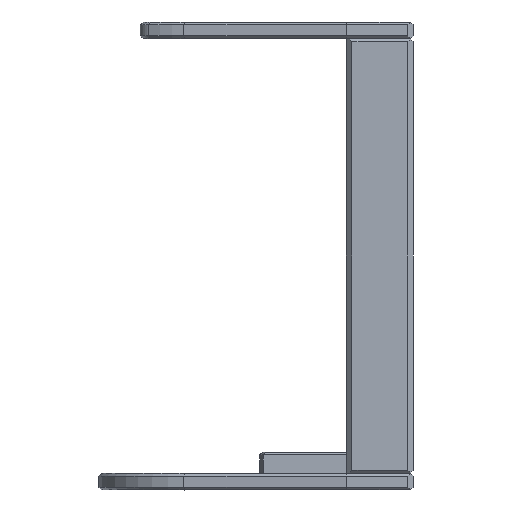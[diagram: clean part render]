
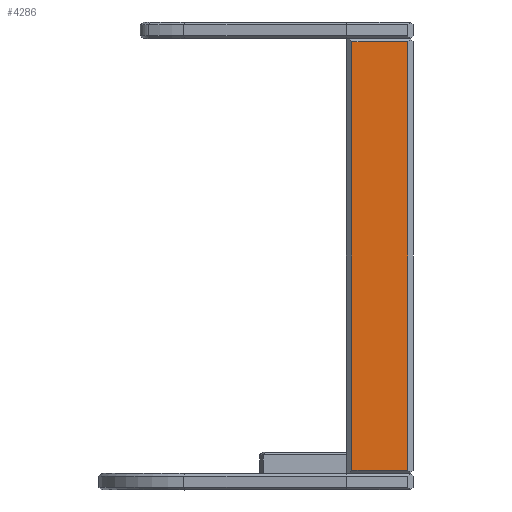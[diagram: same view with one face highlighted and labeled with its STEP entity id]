
A CAD part, left-side view. The second image highlights one B-rep face of the part: STEP entity #4286.
In plain terms, the highlighted planar face has unit normal (-1, 0, 0).
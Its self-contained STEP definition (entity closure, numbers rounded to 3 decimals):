
#1300=DIRECTION('',(0.,-1.,0.));
#1301=VECTOR('',#1300,10.);
#1302=CARTESIAN_POINT('',(-21.,11.,38.5));
#1303=LINE('',#1302,#1301);
#1304=DIRECTION('',(0.,0.,-1.));
#1305=VECTOR('',#1304,77.);
#1306=CARTESIAN_POINT('',(-21.,1.,38.5));
#1307=LINE('',#1306,#1305);
#1308=DIRECTION('',(0.,1.,0.));
#1309=VECTOR('',#1308,10.);
#1310=CARTESIAN_POINT('',(-21.,1.,-38.5));
#1311=LINE('',#1310,#1309);
#1312=DIRECTION('',(0.,0.,-1.));
#1313=VECTOR('',#1312,77.);
#1314=CARTESIAN_POINT('',(-21.,11.,38.5));
#1315=LINE('',#1314,#1313);
#2299=CARTESIAN_POINT('',(-21.,1.,38.5));
#2301=VERTEX_POINT('',#2299);
#2302=CARTESIAN_POINT('',(-21.,11.,38.5));
#2303=VERTEX_POINT('',#2302);
#2307=CARTESIAN_POINT('',(-21.,11.,-38.5));
#2309=VERTEX_POINT('',#2307);
#2310=CARTESIAN_POINT('',(-21.,1.,-38.5));
#2311=VERTEX_POINT('',#2310);
#4273=CARTESIAN_POINT('',(-21.,12.,-39.));
#4274=DIRECTION('',(-1.,0.,0.));
#4275=DIRECTION('',(0.,-1.,0.));
#4276=AXIS2_PLACEMENT_3D('',#4273,#4274,#4275);
#4277=PLANE('',#4276);
#4278=ORIENTED_EDGE('',*,*,#4264,.T.);
#4279=ORIENTED_EDGE('',*,*,#4253,.T.);
#4281=ORIENTED_EDGE('',*,*,#4280,.T.);
#4283=ORIENTED_EDGE('',*,*,#4282,.F.);
#4284=EDGE_LOOP('',(#4278,#4279,#4281,#4283));
#4285=FACE_OUTER_BOUND('',#4284,.F.);
#4286=ADVANCED_FACE('',(#4285),#4277,.T.);
#4253=EDGE_CURVE('',#2301,#2311,#1307,.T.);
#4264=EDGE_CURVE('',#2303,#2301,#1303,.T.);
#4280=EDGE_CURVE('',#2311,#2309,#1311,.T.);
#4282=EDGE_CURVE('',#2303,#2309,#1315,.T.);
